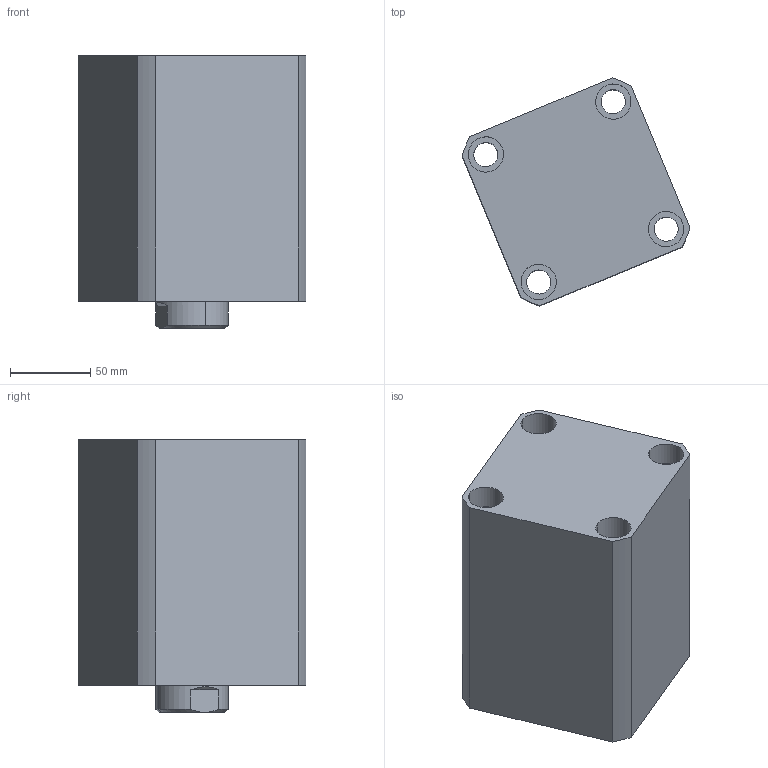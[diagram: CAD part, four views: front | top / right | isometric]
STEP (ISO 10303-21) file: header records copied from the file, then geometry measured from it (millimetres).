
FILE_DESCRIPTION (( 'STEP AP214' ), '1' );
FILE_NAME ('chtb-sd80x75n_asm.STEP', '2018-05-26T04:23:22', ( 'Windows' ), ( 'Microsoft' ), 'SwSTEP 2.0', 'SolidWorks 2015', '' );
FILE_SCHEMA (( 'AUTOMOTIVE_DESIGN' ));
Length unit declared in the file: millimetre
Products named in the file (4): CHTB-SD80X75NHSG; CHTB-SD80X75NBT; CHTB-SD80QG; chtb-sd80x75n_asm
Assembly tree (3 placements, depth 2):
  chtb-sd80x75n_asm
    CHTB-SD80QG
    CHTB-SD80X75NBT
    CHTB-SD80X75NHSG
Bounding box: 142.06 x 142.06 x 170 mm (x, y, z)
Volume: 1557787.8 mm3; surface area: 226070.7 mm2
Topology: 3 solids, 3 shells, 192 faces, 510 edges, 341 vertices
Faces by surface type: cylinder 103, plane 37, cone 20, torus 18, bspline 14
Entity records: 15144 total; most frequent: CARTESIAN_POINT 10435, ORIENTED_EDGE 1008, DIRECTION 889, EDGE_CURVE 504, AXIS2_PLACEMENT_3D 374, VERTEX_POINT 341, EDGE_LOOP 229, ADVANCED_FACE 192
